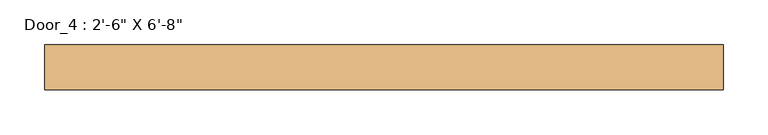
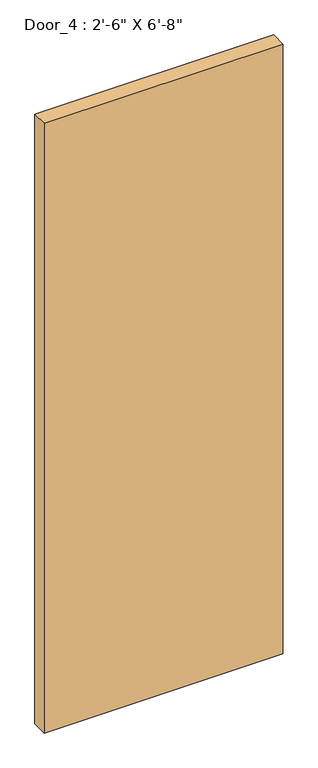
"""IFC4 building model written with IfcOpenShell, lengths in millimetres: door geometry."""

from ifc_helpers import new_model, si_unit, origin, origin_with_axes, place, context, project, spatial, polyline, outline, extrude, source, transform, mapped, element, save


def door_0668c35f(model_context):
    return source(origin(), model_context, "Body", "SweptSolid", [
        extrude(outline(polyline([(381.0, -9.525), (-381.0, -9.525), (-381.0, 41.275), (381.0, 41.275), (381.0, -9.525)])), origin_with_axes(), (0.0, 0.0, 1.0), 2057.4),
    ])


if __name__ == "__main__":
    model = new_model("IFC4")
    model_context = context("Model", 3, world=origin())
    ifc_project = project(units=[si_unit("LENGTHUNIT", "METRE", prefix="MILLI")], contexts=[model_context])
    site = spatial("IfcSite", under=ifc_project)
    building = spatial("IfcBuilding", under=site)
    placement = place(None, origin())
    door_shape = door_0668c35f(model_context)
    element("IfcDoor", 1, ObjectType="Door_4 : 2'-6\" X 6'-8\"", at=placement, inside=building, context=model_context, shape_type="MappedRepresentation", body=[
        mapped(door_shape, transform((0.0, 0.0, 0.0), x_axis=(1.0, 0.0, 0.0), y_axis=(0.0, 1.0, 0.0), z_axis=(0.0, 0.0, 1.0))),
    ])
    save(model, "model.ifc")
